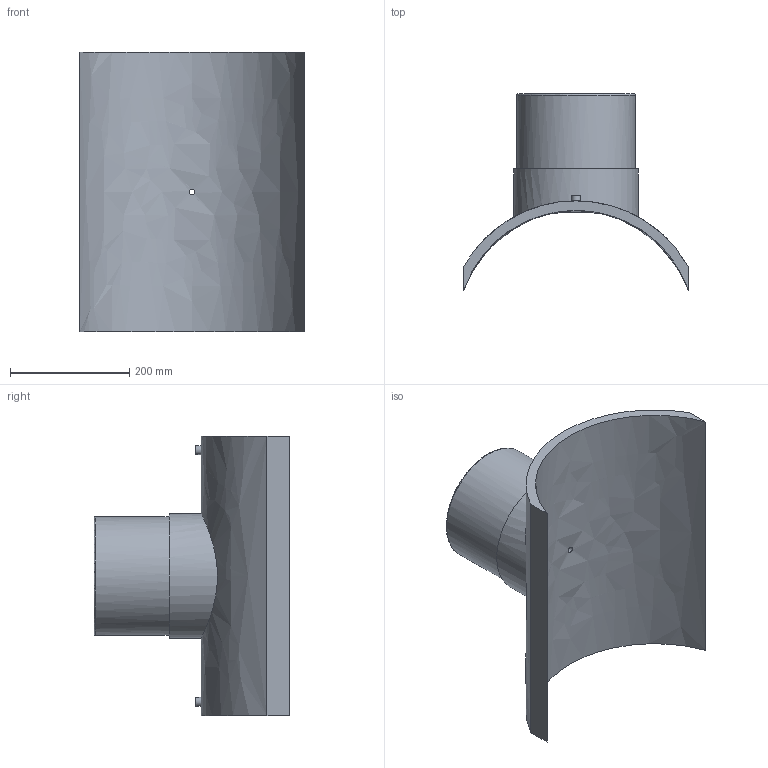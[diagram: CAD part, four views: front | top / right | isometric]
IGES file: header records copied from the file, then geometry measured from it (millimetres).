
Global section: file name: 495803400200T; native system: Autodesk Inventor 2019; preprocessor: unknown; author: KIM; date: 20240404.115031; units: millimetre
Bounding box: 377 x 329.16 x 470 mm (x, y, z)
Volume: 5930853.8 mm3; surface area: 724157.6 mm2
Topology: 1 solids, 1 shells, 29 faces, 60 edges, 43 vertices
Faces by surface type: bspline 29
